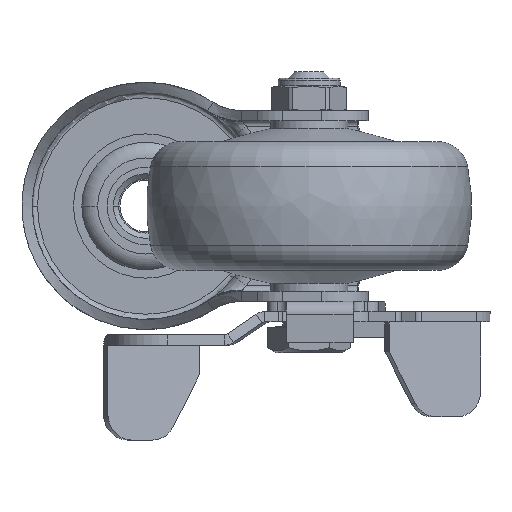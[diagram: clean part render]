
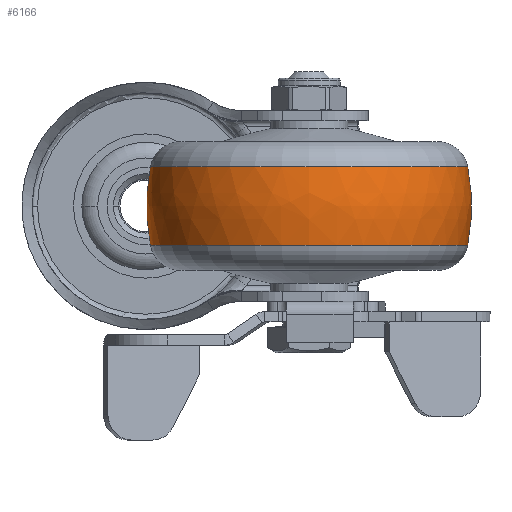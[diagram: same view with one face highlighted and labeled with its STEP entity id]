
A CAD part, front view. The second image highlights one B-rep face of the part: STEP entity #6166.
In plain terms, the highlighted free-form (B-spline) face has degree [3, 3] with [7, 4] control points.
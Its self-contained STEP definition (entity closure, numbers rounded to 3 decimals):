
#5744=CARTESIAN_POINT('',(-7.647,0.,0.));
#5745=DIRECTION('',(-1.,0.,0.));
#5746=DIRECTION('',(0.,1.,0.));
#5747=AXIS2_PLACEMENT_3D('',#5744,#5745,#5746);
#5863=CARTESIAN_POINT('',(0.,-8.5,0.));
#5864=DIRECTION('',(0.,0.,1.));
#5865=DIRECTION('',(0.191,0.982,0.));
#5866=AXIS2_PLACEMENT_3D('',#5863,#5864,#5865);
#5868=CARTESIAN_POINT('',(0.,8.5,0.));
#5869=DIRECTION('',(0.,0.,-1.));
#5870=DIRECTION('',(0.191,-0.982,0.));
#5871=AXIS2_PLACEMENT_3D('',#5868,#5869,#5870);
#5873=CARTESIAN_POINT('',(7.647,0.,0.));
#5874=DIRECTION('',(-1.,0.,0.));
#5875=DIRECTION('',(0.,1.,0.));
#5876=AXIS2_PLACEMENT_3D('',#5873,#5874,#5875);
#5883=CARTESIAN_POINT('',(-7.647,30.762,0.));
#5885=VERTEX_POINT('',#5883);
#5900=CARTESIAN_POINT('',(7.647,30.762,0.));
#5902=VERTEX_POINT('',#5900);
#5903=CARTESIAN_POINT('',(-7.647,-30.762,0.));
#5905=VERTEX_POINT('',#5903);
#5920=CARTESIAN_POINT('',(7.647,-30.762,0.));
#5922=VERTEX_POINT('',#5920);
#6129=CARTESIAN_POINT('',(-7.949,-30.642,
1.928));
#6130=CARTESIAN_POINT('',(-2.685,-31.707,
1.995));
#6131=CARTESIAN_POINT('',(2.685,-31.707,1.995));
#6132=CARTESIAN_POINT('',(7.949,-30.642,1.928));
#6133=CARTESIAN_POINT('',(-7.949,-31.828,
-16.929));
#6134=CARTESIAN_POINT('',(-2.685,-32.934,
-17.518));
#6135=CARTESIAN_POINT('',(2.685,-32.934,
-17.518));
#6136=CARTESIAN_POINT('',(7.949,-31.828,
-16.929));
#6137=CARTESIAN_POINT('',(-7.949,-18.894,
-30.702));
#6138=CARTESIAN_POINT('',(-2.685,-19.551,
-31.77));
#6139=CARTESIAN_POINT('',(2.685,-19.551,
-31.77));
#6140=CARTESIAN_POINT('',(7.949,-18.894,
-30.702));
#6141=CARTESIAN_POINT('',(-7.949,0.,
-30.702));
#6142=CARTESIAN_POINT('',(-2.685,0.,
-31.77));
#6143=CARTESIAN_POINT('',(2.685,0.,
-31.77));
#6144=CARTESIAN_POINT('',(7.949,0.,-30.702));
#6145=CARTESIAN_POINT('',(-7.949,18.894,
-30.702));
#6146=CARTESIAN_POINT('',(-2.685,19.551,
-31.77));
#6147=CARTESIAN_POINT('',(2.685,19.551,-31.77));
#6148=CARTESIAN_POINT('',(7.949,18.894,-30.702));
#6149=CARTESIAN_POINT('',(-7.949,31.828,
-16.929));
#6150=CARTESIAN_POINT('',(-2.685,32.934,
-17.518));
#6151=CARTESIAN_POINT('',(2.685,32.934,-17.518));
#6152=CARTESIAN_POINT('',(7.949,31.828,-16.929));
#6153=CARTESIAN_POINT('',(-7.949,30.642,1.928));
#6154=CARTESIAN_POINT('',(-2.685,31.707,1.995));
#6155=CARTESIAN_POINT('',(2.685,31.707,1.995));
#6156=CARTESIAN_POINT('',(7.949,30.642,1.928));
#6157=(BOUNDED_SURFACE()B_SPLINE_SURFACE(3,3,((#6129,#6130,#6131,#6132),(#6133,
#6134,#6135,#6136),(#6137,#6138,#6139,#6140),(#6141,#6142,#6143,#6144),(#6145,
#6146,#6147,#6148),(#6149,#6150,#6151,#6152),(#6153,#6154,#6155,#6156)),
.UNSPECIFIED.,.F.,.F.,.F.)B_SPLINE_SURFACE_WITH_KNOTS((4,3,4),(4,4),(0.,1.,
2.),(0.,1.),.UNSPECIFIED.)GEOMETRIC_REPRESENTATION_ITEM()RATIONAL_B_SPLINE_SURFACE(((1.199,1.183,1.183,1.199),(
0.947,0.934,0.934,0.947),(
0.947,0.934,0.934,0.947),(
1.199,1.183,1.183,1.199),(
0.947,0.934,0.934,0.947),(
0.947,0.934,0.934,0.947),(
1.199,1.183,1.183,1.199)))REPRESENTATION_ITEM('')SURFACE());
#6159=ORIENTED_EDGE('',*,*,#6158,.T.);
#6160=ORIENTED_EDGE('',*,*,#5948,.T.);
#6162=ORIENTED_EDGE('',*,*,#6161,.F.);
#6163=ORIENTED_EDGE('',*,*,#6122,.F.);
#6164=EDGE_LOOP('',(#6159,#6160,#6162,#6163));
#6165=FACE_OUTER_BOUND('',#6164,.F.);
#5748=CIRCLE('',#5747,30.762);
#5867=CIRCLE('',#5866,40.);
#5872=CIRCLE('',#5871,40.);
#5877=CIRCLE('',#5876,30.762);
#5948=EDGE_CURVE('',#5885,#5905,#5748,.T.);
#6122=EDGE_CURVE('',#5902,#5922,#5877,.T.);
#6158=EDGE_CURVE('',#5902,#5885,#5867,.T.);
#6161=EDGE_CURVE('',#5922,#5905,#5872,.T.);
#6166=ADVANCED_FACE('',(#6165),#6157,.T.);
